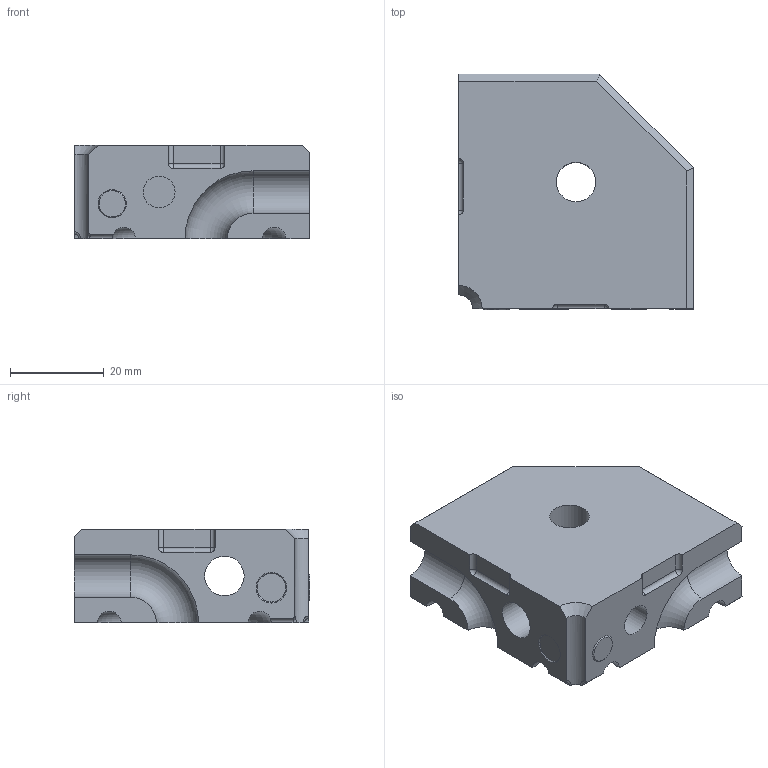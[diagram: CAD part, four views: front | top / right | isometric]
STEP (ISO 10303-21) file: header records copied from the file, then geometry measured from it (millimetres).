
FILE_DESCRIPTION(/* description */ (''),/* implementation_level */ '2;1');
FILE_NAME(/* name */ 'Top Mould.step',/* time_stamp */ '2023-04-14T10:06:45+02:00',/* author */ (''),/* organization */ (''),/* preprocessor_version */ 'ST-DEVELOPER v19.2',/* originating_system */ 'Autodesk Translation Framework v12.4.0.73',/* authorisation */ '');
FILE_SCHEMA (('AUTOMOTIVE_DESIGN { 1 0 10303 214 3 1 1 }'));
Length unit declared in the file: millimetre
Products named in the file (1): Top Mould
Bounding box: 50 x 50.2 x 20 mm (x, y, z)
Volume: 37505.6 mm3; surface area: 10696.3 mm2
Topology: 1 solids, 1 shells, 176 faces, 487 edges, 322 vertices
Faces by surface type: plane 57, bspline 53, cylinder 50, sphere 6, torus 6, cone 4
Full cylindrical faces by diameter (mm): 6.779 x1, 8.4 x2, 15 x1
Entity records: 8311 total; most frequent: CARTESIAN_POINT 4151, ORIENTED_EDGE 974, DIRECTION 684, EDGE_CURVE 487, VERTEX_POINT 322, AXIS2_PLACEMENT_3D 245, LINE 194, VECTOR 194
